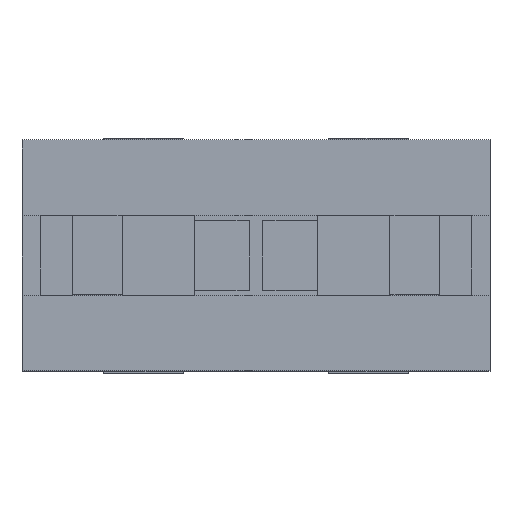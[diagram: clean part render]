
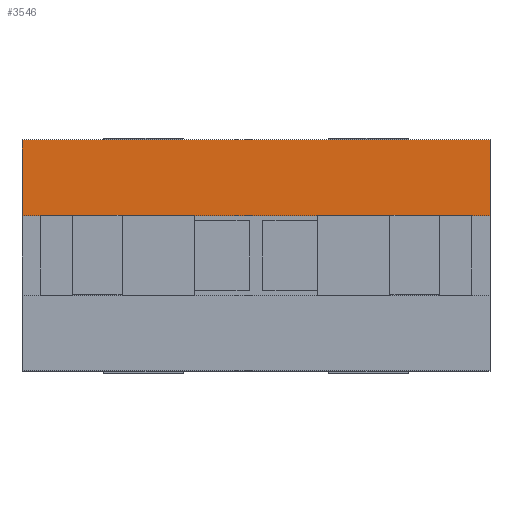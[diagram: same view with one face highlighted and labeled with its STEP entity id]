
A CAD part, top view. The second image highlights one B-rep face of the part: STEP entity #3546.
In plain terms, the highlighted planar face has unit normal (0, 0, 1).
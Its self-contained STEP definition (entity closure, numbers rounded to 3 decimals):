
#179 = EDGE_CURVE ( 'NONE', #2698, #2052, #3282, .T. ) ;
#180 = CARTESIAN_POINT ( 'NONE',  ( 23.5, 4., 57.7 ) ) ;
#274 = CARTESIAN_POINT ( 'NONE',  ( -23.5, 11.6, 57.7 ) ) ;
#318 = EDGE_CURVE ( 'NONE', #2052, #4874, #1743, .T. ) ;
#417 = ORIENTED_EDGE ( 'NONE', *, *, #318, .F. ) ;
#453 = VECTOR ( 'NONE', #3734, 1000. ) ;
#737 = VECTOR ( 'NONE', #2454, 1000. ) ;
#1584 = LINE ( 'NONE', #2992, #5497 ) ;
#1626 = CARTESIAN_POINT ( 'NONE',  ( 23.5, 11.6, 57.7 ) ) ;
#1743 = LINE ( 'NONE', #5245, #453 ) ;
#1891 = ORIENTED_EDGE ( 'NONE', *, *, #4036, .T. ) ;
#2052 = VERTEX_POINT ( 'NONE', #180 ) ;
#2293 = CARTESIAN_POINT ( 'NONE',  ( 23.5, 11.6, 57.7 ) ) ;
#2322 = VECTOR ( 'NONE', #5654, 1000. ) ;
#2454 = DIRECTION ( 'NONE',  ( 0., -1., 0. ) ) ;
#2698 = VERTEX_POINT ( 'NONE', #1626 ) ;
#2952 = EDGE_CURVE ( 'NONE', #3483, #4874, #4784, .T. ) ;
#2992 = CARTESIAN_POINT ( 'NONE',  ( 23.5, 11.6, 57.7 ) ) ;
#3083 = ORIENTED_EDGE ( 'NONE', *, *, #2952, .T. ) ;
#3282 = LINE ( 'NONE', #2293, #737 ) ;
#3434 = DIRECTION ( 'NONE',  ( -1., 0., 0. ) ) ;
#3457 = EDGE_LOOP ( 'NONE', ( #417, #3536, #1891, #3083 ) ) ;
#3483 = VERTEX_POINT ( 'NONE', #274 ) ;
#3514 = DIRECTION ( 'NONE',  ( 0., 0., -1. ) ) ;
#3536 = ORIENTED_EDGE ( 'NONE', *, *, #179, .F. ) ;
#3546 = ADVANCED_FACE ( 'NONE', ( #5532 ), #3787, .F. ) ;
#3734 = DIRECTION ( 'NONE',  ( -1., 0., 0. ) ) ;
#3787 = PLANE ( 'NONE',  #4352 ) ;
#4036 = EDGE_CURVE ( 'NONE', #2698, #3483, #1584, .T. ) ;
#4177 = CARTESIAN_POINT ( 'NONE',  ( 23.5, 11.6, 57.7 ) ) ;
#4352 = AXIS2_PLACEMENT_3D ( 'NONE', #4177, #3514, #3434 ) ;
#4444 = DIRECTION ( 'NONE',  ( -1., 0., 0. ) ) ;
#4784 = LINE ( 'NONE', #5757, #2322 ) ;
#4874 = VERTEX_POINT ( 'NONE', #5198 ) ;
#5198 = CARTESIAN_POINT ( 'NONE',  ( -23.5, 4., 57.7 ) ) ;
#5245 = CARTESIAN_POINT ( 'NONE',  ( 23.5, 4., 57.7 ) ) ;
#5497 = VECTOR ( 'NONE', #4444, 1000. ) ;
#5532 = FACE_OUTER_BOUND ( 'NONE', #3457, .T. ) ;
#5654 = DIRECTION ( 'NONE',  ( 0., -1., 0. ) ) ;
#5757 = CARTESIAN_POINT ( 'NONE',  ( -23.5, 0., 57.7 ) ) ;
